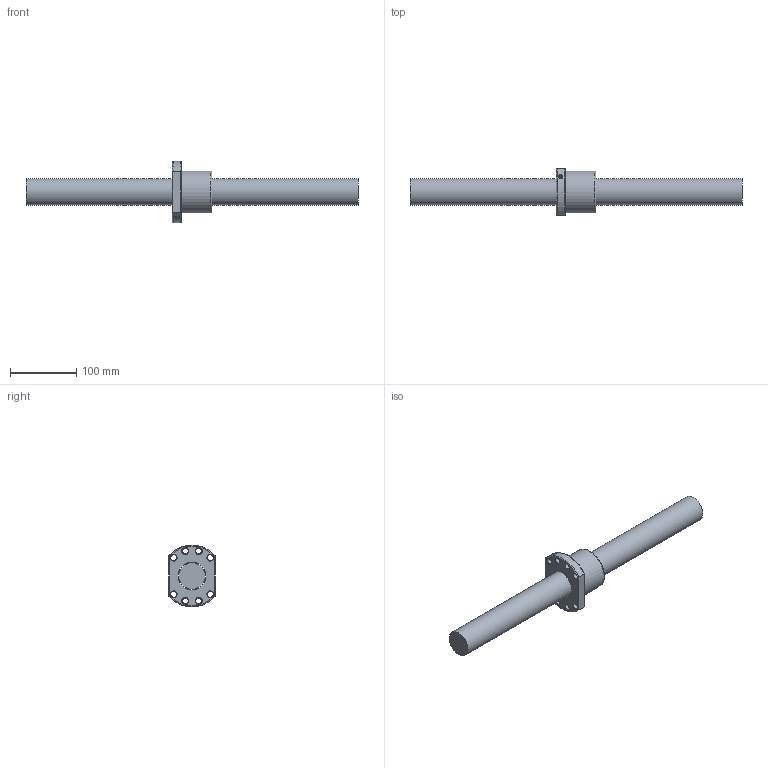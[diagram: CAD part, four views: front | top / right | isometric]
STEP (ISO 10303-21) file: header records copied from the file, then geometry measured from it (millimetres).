
FILE_DESCRIPTION (( 'STEP AP203' ), '1' );
FILE_NAME ('SFU04006D-4.step', '2024-05-14T07:05:04', ( '' ), ( '' ), 'SwSTEP 2.0', 'SolidWorks 2022', '' );
FILE_SCHEMA (( 'CONFIG_CONTROL_DESIGN' ));
Length unit declared in the file: millimetre
Products named in the file (1): SFU04006D-4
Bounding box: 500 x 70 x 93 mm (x, y, z)
Volume: 761747.4 mm3; surface area: 97073.9 mm2
Topology: 2 solids, 2 shells, 60 faces, 146 edges, 91 vertices
Faces by surface type: cylinder 21, cone 17, plane 12, bspline 5, torus 5
Full cylindrical faces by diameter (mm): 4 x1, 5 x6, 9 x8, 40 x1, 42.1 x1, 63 x1
Entity records: 3303 total; most frequent: CARTESIAN_POINT 2141, DIRECTION 214, ORIENTED_EDGE 182, EDGE_LOOP 106, AXIS2_PLACEMENT_3D 99, EDGE_CURVE 91, VERTEX_POINT 75, FACE_OUTER_BOUND 68
